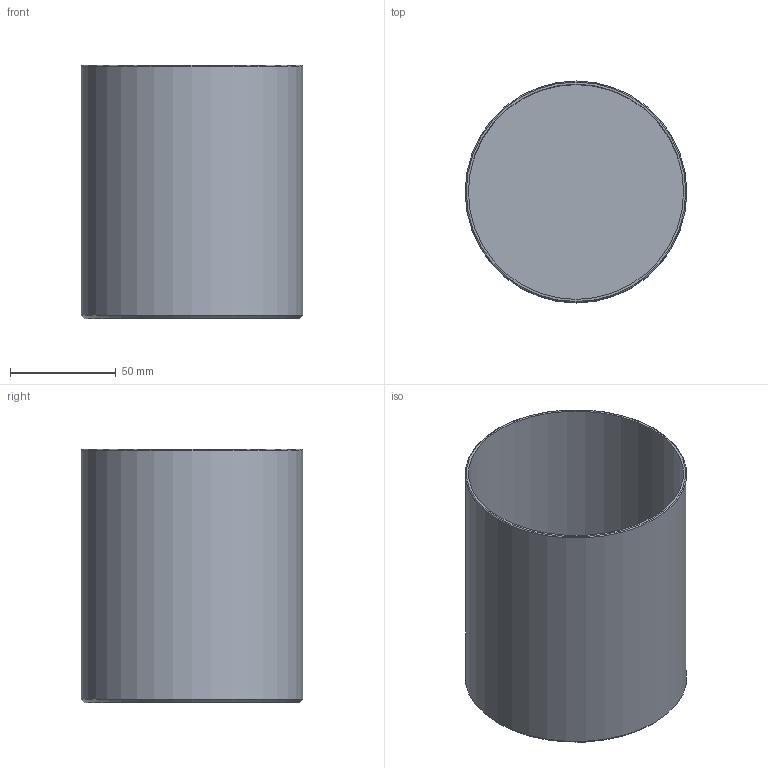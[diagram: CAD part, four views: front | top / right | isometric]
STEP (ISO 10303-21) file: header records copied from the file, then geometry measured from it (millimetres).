
FILE_DESCRIPTION(('FreeCAD Model'),'2;1');
FILE_NAME('Open CASCADE Shape Model','2025-12-23T20:05:06',(''),(''), 'Open CASCADE STEP processor 7.8','FreeCAD','Unknown');
FILE_SCHEMA(('AUTOMOTIVE_DESIGN { 1 0 10303 214 1 1 1 1 }'));
Length unit declared in the file: millimetre
Products named in the file (1): Dose
Bounding box: 105 x 105 x 120 mm (x, y, z)
Volume: 82656.5 mm3; surface area: 94030.2 mm2
Topology: 1 solids, 1 shells, 7 faces, 10 edges, 6 vertices
Faces by surface type: plane 3, cylinder 2, torus 1, cone 1
Full cylindrical faces by diameter (mm): 102 x1, 105 x1
Entity records: 179 total; most frequent: DIRECTION 33, CARTESIAN_POINT 24, ORIENTED_EDGE 20, AXIS2_PLACEMENT_3D 15, EDGE_CURVE 10, FACE_BOUND 8, EDGE_LOOP 8, ADVANCED_FACE 7
